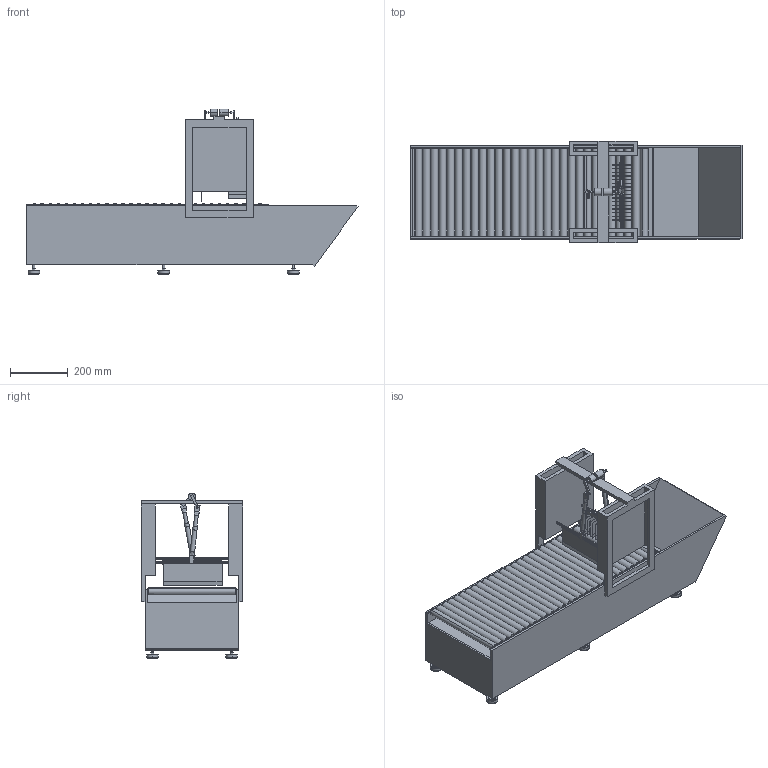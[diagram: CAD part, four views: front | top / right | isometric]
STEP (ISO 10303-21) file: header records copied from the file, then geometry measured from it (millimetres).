
FILE_DESCRIPTION(('CATIA V5 STEP Exchange'),'2;1');
FILE_NAME('C:\Users\Administrator\Desktop\SmartFactory_Cutter\Cutter.stp','2024-09-10T06:41:57+00:00',('none'),('none'),'CATIA Unofficial Packaging Version','3DEXPERIENCE Platform STEP AP203 v1','none');
FILE_SCHEMA(('CONFIG_CONTROL_DESIGN'));
Length unit declared in the file: millimetre
Products named in the file (1): Cutter
Assembly tree (7 placements, depth 2):
  Cutter
    #57
    #22698  x6
Bounding box: 1150.09 x 350.52 x 574.85 mm (x, y, z)
Volume: 18569006.1 mm3; surface area: 3716460.8 mm2
Topology: 19 solids, 19 shells, 963 faces, 2409 edges, 1508 vertices
Faces by surface type: plane 633, cylinder 266, cone 24, torus 24, bspline 16
Entity records: 23598 total; most frequent: CARTESIAN_POINT 6118, ORIENTED_EDGE 4178, DIRECTION 2552, EDGE_CURVE 2089, VERTEX_POINT 1308, VECTOR 1291, LINE 1291, AXIS2_PLACEMENT_3D 907
